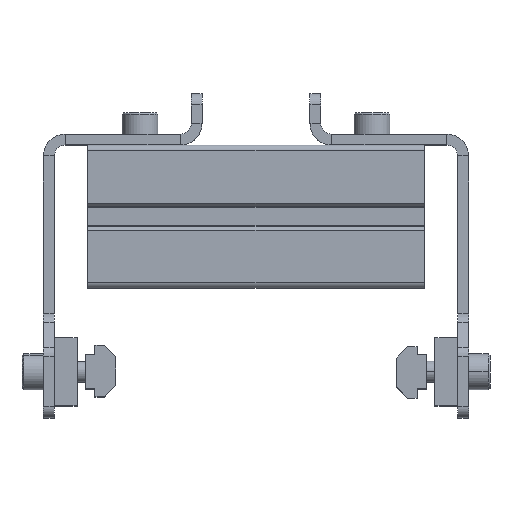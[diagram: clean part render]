
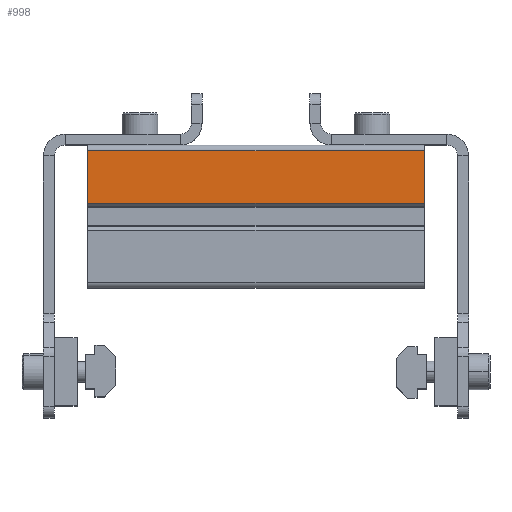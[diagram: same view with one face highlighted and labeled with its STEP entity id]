
A CAD part, top view. The second image highlights one B-rep face of the part: STEP entity #998.
In plain terms, the highlighted planar face has unit normal (0, 0, 1) as drawn and (0, 1, 0) by its records, which use the part's own axes.
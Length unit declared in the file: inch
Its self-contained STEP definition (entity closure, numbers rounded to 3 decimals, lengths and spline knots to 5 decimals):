
#62 = PLANE ( 'NONE',  #5087 ) ;
#225 = CARTESIAN_POINT ( 'NONE',  ( -0.14758, 0.441, -75. ) ) ;
#232 = EDGE_CURVE ( 'NONE', #2061, #4906, #4684, .T. ) ;
#614 = DIRECTION ( 'NONE',  ( 0., 0., 1. ) ) ;
#819 = EDGE_CURVE ( 'NONE', #7684, #6206, #3820, .T. ) ;
#978 = ORIENTED_EDGE ( 'NONE', *, *, #232, .F. ) ;
#998 = ADVANCED_FACE ( 'NONE', ( #3322 ), #62, .F. ) ;
#1380 = DIRECTION ( 'NONE',  ( 0., -1., 0. ) ) ;
#1472 = VECTOR ( 'NONE', #2481, 39.37008 ) ;
#1770 = EDGE_CURVE ( 'NONE', #4906, #6206, #2290, .T. ) ;
#2061 = VERTEX_POINT ( 'NONE', #5942 ) ;
#2290 = LINE ( 'NONE', #7494, #5613 ) ;
#2481 = DIRECTION ( 'NONE',  ( 1., 0., 0. ) ) ;
#2592 = ORIENTED_EDGE ( 'NONE', *, *, #8142, .F. ) ;
#2652 = DIRECTION ( 'NONE',  ( 0., 0., -1. ) ) ;
#2666 = CARTESIAN_POINT ( 'NONE',  ( -0.725, 0.441, -1.85 ) ) ;
#3322 = FACE_OUTER_BOUND ( 'NONE', #7048, .T. ) ;
#3333 = VECTOR ( 'NONE', #614, 39.37008 ) ;
#3408 = DIRECTION ( 'NONE',  ( 0., 0., 1. ) ) ;
#3820 = LINE ( 'NONE', #5028, #3333 ) ;
#4608 = CARTESIAN_POINT ( 'NONE',  ( -0.7875, 0.441, 75. ) ) ;
#4684 = LINE ( 'NONE', #225, #8199 ) ;
#4906 = VERTEX_POINT ( 'NONE', #5272 ) ;
#5028 = CARTESIAN_POINT ( 'NONE',  ( -0.725, 0.441, 75. ) ) ;
#5087 = AXIS2_PLACEMENT_3D ( 'NONE', #4608, #1380, #2652 ) ;
#5272 = CARTESIAN_POINT ( 'NONE',  ( -0.14758, 0.441, 1.85 ) ) ;
#5613 = VECTOR ( 'NONE', #6699, 39.37008 ) ;
#5713 = CARTESIAN_POINT ( 'NONE',  ( 0.7875, 0.441, -1.85 ) ) ;
#5846 = CARTESIAN_POINT ( 'NONE',  ( -0.725, 0.441, 1.85 ) ) ;
#5942 = CARTESIAN_POINT ( 'NONE',  ( -0.14758, 0.441, -1.85 ) ) ;
#6119 = ORIENTED_EDGE ( 'NONE', *, *, #819, .T. ) ;
#6206 = VERTEX_POINT ( 'NONE', #5846 ) ;
#6468 = ORIENTED_EDGE ( 'NONE', *, *, #1770, .F. ) ;
#6472 = LINE ( 'NONE', #5713, #1472 ) ;
#6699 = DIRECTION ( 'NONE',  ( -1., 0., 0. ) ) ;
#7048 = EDGE_LOOP ( 'NONE', ( #978, #2592, #6119, #6468 ) ) ;
#7494 = CARTESIAN_POINT ( 'NONE',  ( 0.7875, 0.441, 1.85 ) ) ;
#7684 = VERTEX_POINT ( 'NONE', #2666 ) ;
#8142 = EDGE_CURVE ( 'NONE', #7684, #2061, #6472, .T. ) ;
#8199 = VECTOR ( 'NONE', #3408, 39.37008 ) ;
